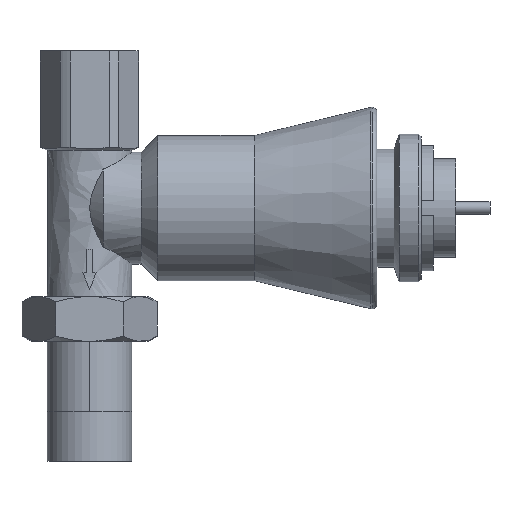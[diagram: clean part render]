
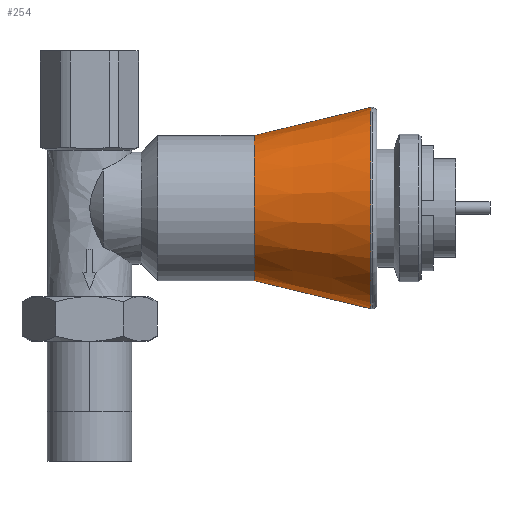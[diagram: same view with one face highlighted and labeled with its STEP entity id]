
A CAD part, left-side view. The second image highlights one B-rep face of the part: STEP entity #254.
In plain terms, the highlighted conical face has half-angle 13.479 degrees and reference radius 17.625 mm.
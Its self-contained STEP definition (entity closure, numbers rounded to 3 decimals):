
#138=CARTESIAN_POINT('',(0.0,-57.277,71.975));
#139=VERTEX_POINT('',#138);
#140=CARTESIAN_POINT('',(0.0,-33.5,66.276));
#141=VERTEX_POINT('',#140);
#142=CARTESIAN_POINT('',(0.0,-57.277,71.975));
#143=DIRECTION('',(0.0,0.972,-0.233));
#144=VECTOR('',#143,24.45);
#145=LINE('',#142,#144);
#146=EDGE_CURVE('',#139,#141,#145,.T.);
#148=CARTESIAN_POINT('',(0.,-57.277,31.025));
#149=VERTEX_POINT('',#148);
#157=CARTESIAN_POINT('',(0.,-33.5,36.724));
#158=VERTEX_POINT('',#157);
#159=CARTESIAN_POINT('',(0.,-33.5,36.724));
#160=DIRECTION('',(0.,-0.972,-0.233));
#161=VECTOR('',#160,24.45);
#162=LINE('',#159,#161);
#163=EDGE_CURVE('',#158,#149,#162,.T.);
#205=CARTESIAN_POINT('',(0.0,-33.5,51.5));
#206=DIRECTION('',(0.0,1.0,0.0));
#207=DIRECTION('',(0.0,0.0,1.0));
#208=AXIS2_PLACEMENT_3D('',#205,#206,#207);
#209=CIRCLE('',#208,14.776);
#210=EDGE_CURVE('',#158,#141,#209,.T.);
#232=CARTESIAN_POINT('',(0.0,-57.277,51.5));
#233=DIRECTION('',(0.0,1.0,0.0));
#234=DIRECTION('',(0.0,0.0,1.0));
#235=AXIS2_PLACEMENT_3D('',#232,#233,#234);
#236=CIRCLE('',#235,20.475);
#237=EDGE_CURVE('',#149,#139,#236,.T.);
#243=CARTESIAN_POINT('',(0.0,-45.388,51.5));
#244=DIRECTION('',(0.0,-1.0,0.));
#245=DIRECTION('',(0.0,0.0,1.0));
#246=AXIS2_PLACEMENT_3D('',#243,#244,#245);
#247=CONICAL_SURFACE('',#246,17.625,13.479);
#248=ORIENTED_EDGE('',*,*,#146,.T.);
#249=ORIENTED_EDGE('',*,*,#210,.F.);
#250=ORIENTED_EDGE('',*,*,#163,.T.);
#251=ORIENTED_EDGE('',*,*,#237,.T.);
#252=EDGE_LOOP('',(#248,#249,#250,#251));
#253=FACE_OUTER_BOUND('',#252,.T.);
#254=ADVANCED_FACE('',(#253),#247,.T.);
